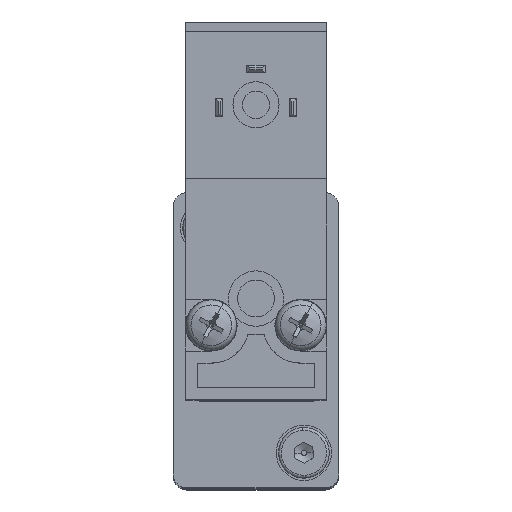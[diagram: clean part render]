
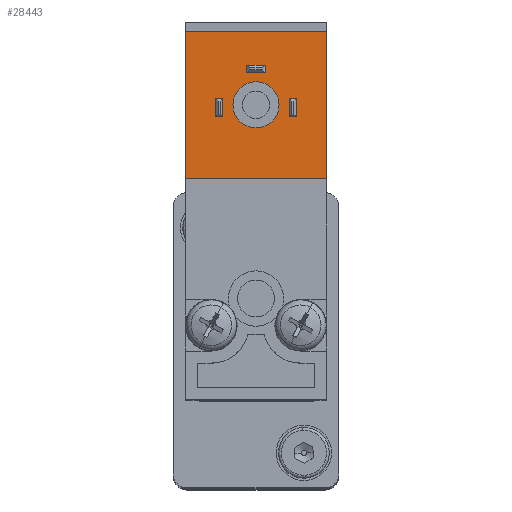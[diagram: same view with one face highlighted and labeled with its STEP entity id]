
A CAD part, top view. The second image highlights one B-rep face of the part: STEP entity #28443.
In plain terms, the highlighted planar face has unit normal (0, 0, 1).
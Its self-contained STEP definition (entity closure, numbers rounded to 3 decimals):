
#27986=CARTESIAN_POINT('',(2.5,11.5,12.3));
#27987=VERTEX_POINT('',#27986);
#27996=CARTESIAN_POINT('',(-2.5,11.5,12.3));
#27997=VERTEX_POINT('',#27996);
#27998=CARTESIAN_POINT('',(0.,11.5,12.3));
#27999=DIRECTION('',(0.0,0.0,-1.0));
#28000=DIRECTION('',(1.0,0.0,0.0));
#28001=AXIS2_PLACEMENT_3D('',#27998,#27999,#28000);
#28002=CIRCLE('',#28001,2.5);
#28003=EDGE_CURVE('',#27997,#27987,#28002,.T.);
#28196=CARTESIAN_POINT('',(7.65,19.5,12.3));
#28197=VERTEX_POINT('',#28196);
#28204=CARTESIAN_POINT('',(7.65,3.5,12.3));
#28205=VERTEX_POINT('',#28204);
#28206=CARTESIAN_POINT('',(7.65,19.5,12.3));
#28207=DIRECTION('',(0.0,-1.0,0.0));
#28208=VECTOR('',#28207,16.0);
#28209=LINE('',#28206,#28208);
#28210=EDGE_CURVE('',#28197,#28205,#28209,.T.);
#28301=CARTESIAN_POINT('',(0.,12.,12.3));
#28302=DIRECTION('',(0.0,0.0,1.0));
#28303=DIRECTION('',(1.0,0.0,0.0));
#28304=AXIS2_PLACEMENT_3D('',#28301,#28302,#28303);
#28305=PLANE('',#28304);
#28306=CARTESIAN_POINT('',(-7.65,19.5,12.3));
#28307=VERTEX_POINT('',#28306);
#28308=CARTESIAN_POINT('',(-7.65,19.5,12.3));
#28309=DIRECTION('',(1.0,0.0,0.0));
#28310=VECTOR('',#28309,15.3);
#28311=LINE('',#28308,#28310);
#28312=EDGE_CURVE('',#28307,#28197,#28311,.T.);
#28313=ORIENTED_EDGE('',*,*,#28312,.F.);
#28314=CARTESIAN_POINT('',(-7.65,3.5,12.3));
#28315=VERTEX_POINT('',#28314);
#28316=CARTESIAN_POINT('',(-7.65,3.5,12.3));
#28317=DIRECTION('',(0.0,1.0,0.0));
#28318=VECTOR('',#28317,16.);
#28319=LINE('',#28316,#28318);
#28320=EDGE_CURVE('',#28315,#28307,#28319,.T.);
#28321=ORIENTED_EDGE('',*,*,#28320,.F.);
#28322=CARTESIAN_POINT('',(7.65,3.5,12.3));
#28323=DIRECTION('',(-1.0,0.0,0.0));
#28324=VECTOR('',#28323,15.3);
#28325=LINE('',#28322,#28324);
#28326=EDGE_CURVE('',#28205,#28315,#28325,.T.);
#28327=ORIENTED_EDGE('',*,*,#28326,.F.);
#28328=ORIENTED_EDGE('',*,*,#28210,.F.);
#28329=EDGE_LOOP('',(#28313,#28321,#28327,#28328));
#28330=FACE_OUTER_BOUND('',#28329,.T.);
#28331=CARTESIAN_POINT('',(0.,11.5,12.3));
#28332=DIRECTION('',(0.0,0.0,-1.0));
#28333=DIRECTION('',(1.0,0.0,0.0));
#28334=AXIS2_PLACEMENT_3D('',#28331,#28332,#28333);
#28335=CIRCLE('',#28334,2.5);
#28336=EDGE_CURVE('',#27987,#27997,#28335,.T.);
#28337=ORIENTED_EDGE('',*,*,#28336,.T.);
#28338=ORIENTED_EDGE('',*,*,#28003,.T.);
#28339=EDGE_LOOP('',(#28337,#28338));
#28340=FACE_BOUND('',#28339,.T.);
#28341=CARTESIAN_POINT('',(-1.,15.8,12.3));
#28342=VERTEX_POINT('',#28341);
#28343=CARTESIAN_POINT('',(1.,15.8,12.3));
#28344=VERTEX_POINT('',#28343);
#28345=CARTESIAN_POINT('',(-1.,15.8,12.3));
#28346=DIRECTION('',(1.0,0.0,0.0));
#28347=VECTOR('',#28346,2.);
#28348=LINE('',#28345,#28347);
#28349=EDGE_CURVE('',#28342,#28344,#28348,.T.);
#28350=ORIENTED_EDGE('',*,*,#28349,.T.);
#28351=CARTESIAN_POINT('',(1.,15.,12.3));
#28352=VERTEX_POINT('',#28351);
#28353=CARTESIAN_POINT('',(1.,15.8,12.3));
#28354=DIRECTION('',(0.0,-1.0,0.0));
#28355=VECTOR('',#28354,0.8);
#28356=LINE('',#28353,#28355);
#28357=EDGE_CURVE('',#28344,#28352,#28356,.T.);
#28358=ORIENTED_EDGE('',*,*,#28357,.T.);
#28359=CARTESIAN_POINT('',(-1.,15.,12.3));
#28360=VERTEX_POINT('',#28359);
#28361=CARTESIAN_POINT('',(1.,15.,12.3));
#28362=DIRECTION('',(-1.0,0.0,0.0));
#28363=VECTOR('',#28362,2.0);
#28364=LINE('',#28361,#28363);
#28365=EDGE_CURVE('',#28352,#28360,#28364,.T.);
#28366=ORIENTED_EDGE('',*,*,#28365,.T.);
#28367=CARTESIAN_POINT('',(-1.,15.,12.3));
#28368=DIRECTION('',(0.0,1.0,0.0));
#28369=VECTOR('',#28368,0.8);
#28370=LINE('',#28367,#28369);
#28371=EDGE_CURVE('',#28360,#28342,#28370,.T.);
#28372=ORIENTED_EDGE('',*,*,#28371,.T.);
#28373=EDGE_LOOP('',(#28350,#28358,#28366,#28372));
#28374=FACE_BOUND('',#28373,.T.);
#28375=CARTESIAN_POINT('',(-4.4,12.2,12.3));
#28376=VERTEX_POINT('',#28375);
#28377=CARTESIAN_POINT('',(-3.6,12.2,12.3));
#28378=VERTEX_POINT('',#28377);
#28379=CARTESIAN_POINT('',(-4.4,12.2,12.3));
#28380=DIRECTION('',(1.0,0.0,0.0));
#28381=VECTOR('',#28380,0.8);
#28382=LINE('',#28379,#28381);
#28383=EDGE_CURVE('',#28376,#28378,#28382,.T.);
#28384=ORIENTED_EDGE('',*,*,#28383,.T.);
#28385=CARTESIAN_POINT('',(-3.6,10.2,12.3));
#28386=VERTEX_POINT('',#28385);
#28387=CARTESIAN_POINT('',(-3.6,12.2,12.3));
#28388=DIRECTION('',(0.0,-1.0,0.0));
#28389=VECTOR('',#28388,2.0);
#28390=LINE('',#28387,#28389);
#28391=EDGE_CURVE('',#28378,#28386,#28390,.T.);
#28392=ORIENTED_EDGE('',*,*,#28391,.T.);
#28393=CARTESIAN_POINT('',(-4.4,10.2,12.3));
#28394=VERTEX_POINT('',#28393);
#28395=CARTESIAN_POINT('',(-3.6,10.2,12.3));
#28396=DIRECTION('',(-1.0,0.0,0.0));
#28397=VECTOR('',#28396,0.8);
#28398=LINE('',#28395,#28397);
#28399=EDGE_CURVE('',#28386,#28394,#28398,.T.);
#28400=ORIENTED_EDGE('',*,*,#28399,.T.);
#28401=CARTESIAN_POINT('',(-4.4,10.2,12.3));
#28402=DIRECTION('',(0.0,1.0,0.0));
#28403=VECTOR('',#28402,2.0);
#28404=LINE('',#28401,#28403);
#28405=EDGE_CURVE('',#28394,#28376,#28404,.T.);
#28406=ORIENTED_EDGE('',*,*,#28405,.T.);
#28407=EDGE_LOOP('',(#28384,#28392,#28400,#28406));
#28408=FACE_BOUND('',#28407,.T.);
#28409=CARTESIAN_POINT('',(3.6,12.2,12.3));
#28410=VERTEX_POINT('',#28409);
#28411=CARTESIAN_POINT('',(4.4,12.2,12.3));
#28412=VERTEX_POINT('',#28411);
#28413=CARTESIAN_POINT('',(3.6,12.2,12.3));
#28414=DIRECTION('',(1.0,0.0,0.0));
#28415=VECTOR('',#28414,0.8);
#28416=LINE('',#28413,#28415);
#28417=EDGE_CURVE('',#28410,#28412,#28416,.T.);
#28418=ORIENTED_EDGE('',*,*,#28417,.T.);
#28419=CARTESIAN_POINT('',(4.4,10.2,12.3));
#28420=VERTEX_POINT('',#28419);
#28421=CARTESIAN_POINT('',(4.4,12.2,12.3));
#28422=DIRECTION('',(0.0,-1.0,0.0));
#28423=VECTOR('',#28422,2.0);
#28424=LINE('',#28421,#28423);
#28425=EDGE_CURVE('',#28412,#28420,#28424,.T.);
#28426=ORIENTED_EDGE('',*,*,#28425,.T.);
#28427=CARTESIAN_POINT('',(3.6,10.2,12.3));
#28428=VERTEX_POINT('',#28427);
#28429=CARTESIAN_POINT('',(4.4,10.2,12.3));
#28430=DIRECTION('',(-1.0,0.0,0.0));
#28431=VECTOR('',#28430,0.8);
#28432=LINE('',#28429,#28431);
#28433=EDGE_CURVE('',#28420,#28428,#28432,.T.);
#28434=ORIENTED_EDGE('',*,*,#28433,.T.);
#28435=CARTESIAN_POINT('',(3.6,10.2,12.3));
#28436=DIRECTION('',(0.0,1.0,0.0));
#28437=VECTOR('',#28436,2.0);
#28438=LINE('',#28435,#28437);
#28439=EDGE_CURVE('',#28428,#28410,#28438,.T.);
#28440=ORIENTED_EDGE('',*,*,#28439,.T.);
#28441=EDGE_LOOP('',(#28418,#28426,#28434,#28440));
#28442=FACE_BOUND('',#28441,.T.);
#28443=ADVANCED_FACE('',(#28330,#28340,#28374,#28408,#28442),#28305,.T.);
